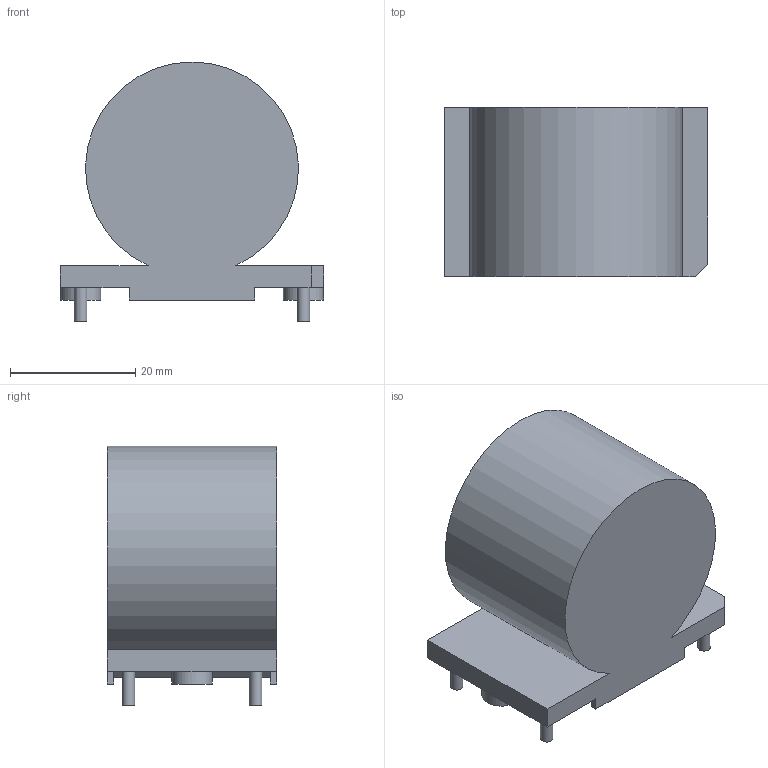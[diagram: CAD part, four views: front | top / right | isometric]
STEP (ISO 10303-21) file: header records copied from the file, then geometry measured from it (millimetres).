
FILE_DESCRIPTION(/* description */ (''),/* implementation_level */ '2;1');
FILE_NAME(/* name */ 'F:\Done\2016\多产品3D模拟\终版\新建文件夹\6128-X220\6128-X220 3D Model.stp',/* time_stamp */ '2016-07-12T15:01:46+08:00',/* author */ ('CN000562'),/* organization */ (''),/* preprocessor_version */ 'ST-DEVELOPER v16.5',/* originating_system */ 'Autodesk Inventor 2017',/* authorisation */ '');
FILE_SCHEMA (('AUTOMOTIVE_DESIGN { 1 0 10303 214 3 1 1 }'));
Length unit declared in the file: millimetre
Products named in the file (1): 6126-X216 3D Model
Bounding box: 42 x 27 x 41.5 mm (x, y, z)
Volume: 28713.8 mm3; surface area: 7074.8 mm2
Topology: 1 solids, 1 shells, 43 faces, 102 edges, 67 vertices
Faces by surface type: plane 36, cylinder 7
Full cylindrical faces by diameter (mm): 2 x4, 6.44 x2
Entity records: 1217 total; most frequent: CARTESIAN_POINT 205, DIRECTION 197, ORIENTED_EDGE 190, EDGE_CURVE 95, LINE 81, VECTOR 81, VERTEX_POINT 66, AXIS2_PLACEMENT_3D 58
